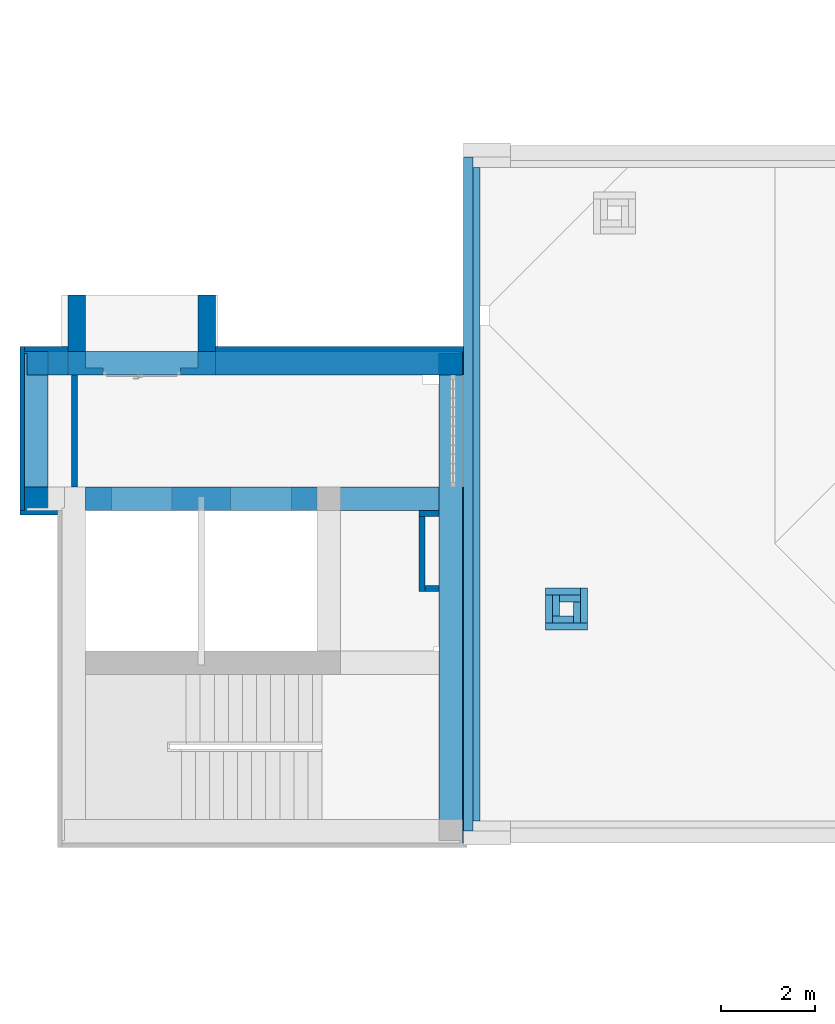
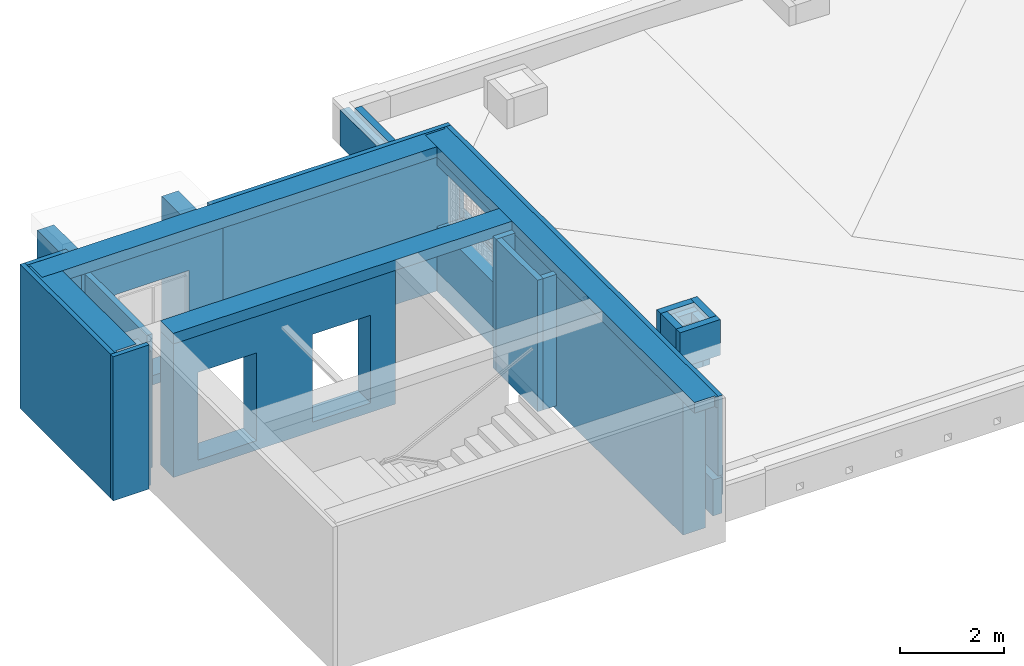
# One storey, part 4 of 27: 27 walls, 4 openings.
"""IFC4 building model written with IfcOpenShell, lengths in metres."""

from ifc_helpers import new_model, entity, si_unit, converted_unit, derived_unit, frame, frame_2d, origin, origin_with_axes, place, context, subcontext, project, spatial, polyline, rectangle, outline, extrude, clip, bounded_halfspace, material, layer, layer_set, layer_usage, element, save


model = new_model("IFC4")

# Units and contexts
model_context = context("Model", 3, precision=1e-05, world=origin())
body_context = subcontext(model_context, "Body", "Model", "MODEL_VIEW")
ifc_project = project(units=[si_unit("LENGTHUNIT", "METRE"), si_unit("AREAUNIT", "SQUARE_METRE"), si_unit("VOLUMEUNIT", "CUBIC_METRE"), si_unit("MASSUNIT", "GRAM", prefix="KILO"), converted_unit("PLANEANGLEUNIT", "DEGREE", entity("IfcPlaneAngleMeasure", 0.0174532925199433), si_unit("PLANEANGLEUNIT", "RADIAN"), dimensions=[0, 0, 0, 0, 0, 0, 0]), derived_unit("THERMALTRANSMITTANCEUNIT", [(si_unit("POWERUNIT", "WATT"), 1), (si_unit("THERMODYNAMICTEMPERATUREUNIT", "KELVIN"), -1), (si_unit("LENGTHUNIT", "METRE"), -2)]), derived_unit("VOLUMETRICFLOWRATEUNIT", [(si_unit("LENGTHUNIT", "METRE"), 3), (converted_unit("TIMEUNIT", "hour", entity("IfcTimeMeasure", 3600.0), si_unit("TIMEUNIT", "SECOND"), dimensions=[0, 0, 1, 0, 0, 0, 0]), -1), (si_unit("LENGTHUNIT", "METRE"), -1)])], contexts=[model_context])

# Site, building, storey
site_placement = place(None, origin())
site = spatial("IfcSite", under=ifc_project, at=site_placement, Name="3. ASŘ", CompositionType="ELEMENT")
building_placement = place(site_placement, origin())
building = spatial("IfcBuilding", under=site, at=building_placement, Name="Pavilon C", CompositionType="ELEMENT")
storey_placement = place(building_placement, frame((0.0, 0.0, 7.2)))
storey = spatial("IfcBuildingStorey", under=building, at=storey_placement, Name="Půdorys 3.NP", CompositionType="ELEMENT", Elevation=7.2)

# Walls
ifc_material_1 = material(Name="ZDIVO Z CDm")
ifc_layer_1 = layer(ifc_material_1, 0.125)
ifc_layer_set_1 = layer_set([ifc_layer_1])
ifc_layer_usage_1 = layer_usage(ifc_layer_set_1, "AXIS2", "POSITIVE", 0.0)
wall_1_placement = place(storey_placement, frame((-9.37499999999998, 10.35, -0.52), z_axis=(0.0, 0.0, 1.0), x_axis=(0.0, -1.0, 0.0)))
element("IfcWall", 1, at=wall_1_placement, inside=storey, material=ifc_layer_usage_1, Name="ZDIVO Z CDm", context=body_context, shape_type="SweptSolid", body=[
    extrude(rectangle(XDim=2.4, YDim=0.125, at=frame_2d((1.2, 0.0625), x_axis=(1.0, 0.0))), origin_with_axes(), (0.0, 0.0, 1.0), 3.15),
])
ifc_material_2 = material(Name="ZDIVO")
ifc_layer_2 = layer(ifc_material_2, 0.150000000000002)
ifc_layer_set_2 = layer_set([ifc_layer_2])
ifc_layer_usage_2 = layer_usage(ifc_layer_set_2, "AXIS2", "POSITIVE", 0.0)
wall_2_placement = place(storey_placement, frame((1.05000000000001, 5.5, -0.1)))
element("IfcWall", 2, at=wall_2_placement, inside=storey, material=ifc_layer_usage_2, Name="ZDIVO Z CDm", context=body_context, shape_type="SweptSolid", body=[
    extrude(rectangle(XDim=0.450000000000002, YDim=0.150000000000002, at=frame_2d((0.225000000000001, 0.0750000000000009), x_axis=(1.0, 0.0))), origin_with_axes(), (0.0, 0.0, 1.0), 1.0),
])
ifc_material_3 = material(Name="ZDIVO")
ifc_layer_3 = layer(ifc_material_3, 0.150000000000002)
ifc_layer_set_3 = layer_set([ifc_layer_3])
ifc_layer_usage_3 = layer_usage(ifc_layer_set_3, "AXIS2", "POSITIVE", 0.0)
wall_3_placement = place(storey_placement, frame((1.05000000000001, 5.2, -0.1), z_axis=(0.0, 0.0, 1.0), x_axis=(0.0, 1.0, 0.0)))
element("IfcWall", 3, at=wall_3_placement, inside=storey, material=ifc_layer_usage_3, Name="ZDIVO Z CDm", context=body_context, shape_type="SweptSolid", body=[
    extrude(rectangle(XDim=0.450000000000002, YDim=0.150000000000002, at=frame_2d((0.225000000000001, 0.0750000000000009), x_axis=(1.0, 0.0))), origin_with_axes(), (0.0, 0.0, 1.0), 1.0),
])
ifc_material_4 = material(Name="ZDIVO")
ifc_layer_4 = layer(ifc_material_4, 0.150000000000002)
ifc_layer_set_4 = layer_set([ifc_layer_4])
ifc_layer_usage_4 = layer_usage(ifc_layer_set_4, "AXIS2", "POSITIVE", 0.0)
wall_4_placement = place(storey_placement, frame((1.35000000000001, 5.2, -0.1), z_axis=(0.0, 0.0, 1.0), x_axis=(-1.0, 0.0, 0.0)))
element("IfcWall", 4, at=wall_4_placement, inside=storey, material=ifc_layer_usage_4, Name="ZDIVO Z CDm", context=body_context, shape_type="SweptSolid", body=[
    extrude(rectangle(XDim=0.450000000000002, YDim=0.150000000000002, at=frame_2d((0.225000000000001, 0.0750000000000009), x_axis=(1.0, 0.0))), origin_with_axes(), (0.0, 0.0, 1.0), 1.0),
])
ifc_material_5 = material(Name="ZDIVO")
ifc_layer_5 = layer(ifc_material_5, 0.150000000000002)
ifc_layer_set_5 = layer_set([ifc_layer_5])
ifc_layer_usage_5 = layer_usage(ifc_layer_set_5, "AXIS2", "POSITIVE", 0.0)
wall_5_placement = place(storey_placement, frame((1.35000000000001, 5.5, -0.1), z_axis=(0.0, 0.0, 1.0), x_axis=(0.0, -1.0, 0.0)))
element("IfcWall", 5, at=wall_5_placement, inside=storey, material=ifc_layer_usage_5, Name="ZDIVO Z CDm", context=body_context, shape_type="SweptSolid", body=[
    extrude(rectangle(XDim=0.450000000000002, YDim=0.150000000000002, at=frame_2d((0.225000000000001, 0.0750000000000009), x_axis=(1.0, 0.0))), origin_with_axes(), (0.0, 0.0, 1.0), 1.0),
])
ifc_material_6 = material(Name="ZDIVO Z CDm")
ifc_layer_6 = layer(ifc_material_6, 0.125)
ifc_layer_set_6 = layer_set([ifc_layer_6])
ifc_layer_usage_6 = layer_usage(ifc_layer_set_6, "AXIS2", "POSITIVE", 0.0)
wall_6_placement = place(storey_placement, frame((-1.94999999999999, 7.325, -0.42), z_axis=(0.0, 0.0, 1.0), x_axis=(-2.8421709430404e-16, -1.0, 0.0)))
element("IfcWall", 6, at=wall_6_placement, inside=storey, material=ifc_layer_usage_6, Name="ZDIVO Z CDm", context=body_context, shape_type="SweptSolid", body=[
    extrude(rectangle(XDim=1.6, YDim=0.125, at=frame_2d((0.8, 0.0625), x_axis=(1.0, 0.0))), origin_with_axes(), (0.0, 0.0, 1.0), 3.1),
])
ifc_material_7 = material(Name="ZDIVO Z CDm")
ifc_layer_7 = layer(ifc_material_7, 0.125)
ifc_layer_set_7 = layer_set([ifc_layer_7])
ifc_layer_usage_7 = layer_usage(ifc_layer_set_7, "AXIS2", "POSITIVE", 0.0)
wall_7_placement = place(storey_placement, frame((-1.52499999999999, 5.85, -0.42), z_axis=(0.0, 0.0, 1.0), x_axis=(-1.0, 0.0, 0.0)))
element("IfcWall", 7, at=wall_7_placement, inside=storey, material=ifc_layer_usage_7, Name="ZDIVO Z CDm", context=body_context, shape_type="SweptSolid", body=[
    extrude(rectangle(XDim=0.299999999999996, YDim=0.125, at=frame_2d((0.149999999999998, 0.0625), x_axis=(1.0, 0.0))), origin_with_axes(), (0.0, 0.0, 1.0), 3.1),
])
ifc_material_8 = material(Name="ZDIVO Z CDm")
ifc_layer_8 = layer(ifc_material_8, 0.125)
ifc_layer_set_8 = layer_set([ifc_layer_8])
ifc_layer_usage_8 = layer_usage(ifc_layer_set_8, "AXIS2", "POSITIVE", 0.0)
wall_8_placement = place(storey_placement, frame((-1.94999999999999, 7.325, -0.42)))
element("IfcWall", 8, at=wall_8_placement, inside=storey, material=ifc_layer_usage_8, Name="ZDIVO Z CDm", context=body_context, shape_type="SweptSolid", body=[
    extrude(rectangle(XDim=0.425, YDim=0.125, at=frame_2d((0.2125, 0.0625), x_axis=(1.0, 0.0))), origin_with_axes(), (0.0, 0.0, 1.0), 3.1),
])
ifc_material_9 = material(Name="NEOVĚŘENO")
ifc_layer_9 = layer(ifc_material_9, 0.375)
ifc_layer_set_9 = layer_set([ifc_layer_9])
ifc_layer_usage_9 = layer_usage(ifc_layer_set_9, "AXIS2", "POSITIVE", 0.0)
wall_9_placement = place(storey_placement, frame((-9.07499999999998, 10.85, -0.42), z_axis=(0.0, 0.0, 1.0), x_axis=(0.0, 1.0, 0.0)))
element("IfcWall", 9, at=wall_9_placement, inside=storey, material=ifc_layer_usage_9, Name="YTONG 375", context=body_context, shape_type="SweptSolid", body=[
    extrude(rectangle(XDim=1.21, YDim=0.375, at=frame_2d((0.605, 0.1875), x_axis=(1.0, 0.0))), origin_with_axes(), (0.0, 0.0, 1.0), 3.07),
])
ifc_material_10 = material(Name="NEOVĚŘENO")
ifc_layer_10 = layer(ifc_material_10, 0.375)
ifc_layer_set_10 = layer_set([ifc_layer_10])
ifc_layer_usage_10 = layer_usage(ifc_layer_set_10, "AXIS2", "POSITIVE", 0.0)
wall_10_placement = place(storey_placement, frame((-6.29999999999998, 10.85, -0.42), z_axis=(0.0, 0.0, 1.0), x_axis=(0.0, 1.0, 0.0)))
element("IfcWall", 10, at=wall_10_placement, inside=storey, material=ifc_layer_usage_10, Name="YTONG 375", context=body_context, shape_type="SweptSolid", body=[
    extrude(rectangle(XDim=1.21, YDim=0.375, at=frame_2d((0.605, 0.1875), x_axis=(1.0, 0.0))), origin_with_axes(), (0.0, 0.0, 1.0), 2.9),
])
ifc_material_11 = material(Name="EPS")
ifc_layer_11 = layer(ifc_material_11, 0.1)
ifc_material_12 = material(Name="ZDIVO Z CDm")
ifc_layer_12 = layer(ifc_material_12, 0.499999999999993)
ifc_layer_set_11 = layer_set([ifc_layer_11, ifc_layer_12])
ifc_layer_usage_11 = layer_usage(ifc_layer_set_11, "AXIS2", "POSITIVE", -0.1)
wall_11_placement = place(storey_placement, frame((-10.475, 10.95, -0.52), z_axis=(0.0, 0.0, 1.0), x_axis=(0.0, -1.0, 0.0)))
element("IfcWall", 11, at=wall_11_placement, inside=storey, material=ifc_layer_usage_11, Name="ZDIVO Z CDm", context=body_context, shape_type="Clipping", body=[
    clip(extrude(outline(polyline([(-3.49999999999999, 0.0), (0.0, 0.0), (0.0, 0.1), (-0.499999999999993, 0.1), (-0.499999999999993, 0.599999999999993), (-3.39999999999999, 0.599999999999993), (-3.39999999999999, 0.1), (-3.49999999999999, 0.1), (-3.49999999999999, 0.0)])), frame((3.49999999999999, 0.0, 0.0), z_axis=(0.0, 0.0, 1.0), x_axis=(1.0, 0.0, 0.0)), (0.0, 0.0, 1.0), 3.4), bounded_halfspace(frame((1.55, 0.349999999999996, 3.15), z_axis=(0.0, 0.0, -1.0), x_axis=(1.0, 0.0, 0.0)), True, origin_with_axes(), polyline([(0.1, 0.1), (3.0, 0.1), (3.0, 0.599999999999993), (0.1, 0.599999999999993), (0.1, 0.1)]))),
])

# Wall, openings
ifc_material_13 = material(Name="ZDIVO Z CDm")
ifc_layer_13 = layer(ifc_material_13, 0.5)
ifc_layer_set_12 = layer_set([ifc_layer_13])
ifc_layer_usage_12 = layer_usage(ifc_layer_set_12, "AXIS2", "POSITIVE", 0.0)
wall_12_placement = place(storey_placement, frame((-4.12499999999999, 7.95, -0.52), z_axis=(0.0, 0.0, 1.0), x_axis=(-1.0, 0.0, 0.0)))
wall_12 = element("IfcWall", 12, at=wall_12_placement, inside=storey, material=ifc_layer_usage_12, Name="ZDIVO Z CDm", context=body_context, shape_type="SweptSolid", body=[
    extrude(rectangle(XDim=4.95, YDim=0.5, at=frame_2d((2.475, 0.25), x_axis=(1.0, 0.0))), origin_with_axes(), (0.0, 0.0, 1.0), 3.15),
])
opening_1_placement = place(wall_12_placement, frame((3.1, 0.0, 0.22), z_axis=(0.0, 1.0, 0.0), x_axis=(0.0, 0.0, 1.0)))
element("IfcOpeningElement", 13, at=opening_1_placement, cuts=wall_12, Name="Dveřní otvor", ObjectType="Opening", context=body_context, shape_type="SweptSolid", body=[
    extrude(outline(polyline([(0.0, 1.3), (2.07, 1.3), (2.07, 0.0), (0.0, 0.0), (0.0, 1.3)])), origin_with_axes(), (0.0, 0.0, 1.0), 0.5),
])
opening_2_placement = place(wall_12_placement, frame((0.55, 0.0, 0.22), z_axis=(0.0, 1.0, 0.0), x_axis=(0.0, 0.0, 1.0)))
element("IfcOpeningElement", 14, at=opening_2_placement, cuts=wall_12, Name="Dveřní otvor", ObjectType="Opening", context=body_context, shape_type="SweptSolid", body=[
    extrude(outline(polyline([(0.0, 1.3), (2.07, 1.3), (2.07, 0.0), (0.0, 0.0), (0.0, 1.3)])), origin_with_axes(), (0.0, 0.0, 1.0), 0.5),
])

# Wall
ifc_material_14 = material(Name="EPS")
ifc_layer_14 = layer(ifc_material_14, 0.1)
ifc_material_15 = material(Name="ZDIVO Z CDm")
ifc_layer_15 = layer(ifc_material_15, 0.499999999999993)
ifc_layer_set_13 = layer_set([ifc_layer_14, ifc_layer_15])
ifc_layer_usage_13 = layer_usage(ifc_layer_set_13, "AXIS2", "POSITIVE", -0.1)
wall_13_placement = place(storey_placement, frame((-10.475, 7.35000000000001, -0.52)))
element("IfcWall", 15, at=wall_13_placement, inside=storey, material=ifc_layer_usage_13, Name="ZDIVO Z CDm", context=body_context, shape_type="Clipping", body=[
    clip(extrude(outline(polyline([(0.0, 0.0), (0.8, 0.0), (0.8, 0.1), (0.9, 0.1), (0.9, 0.599999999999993), (0.1, 0.599999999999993), (0.1, 0.1), (0.0, 0.1), (0.0, 0.0)])), origin_with_axes(), (0.0, 0.0, 1.0), 3.4), bounded_halfspace(frame((0.559999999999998, 0.299999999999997, 3.15), z_axis=(0.0, 0.0, -1.0), x_axis=(1.0, 0.0, 0.0)), True, origin_with_axes(), polyline([(0.8, 0.1), (0.9, 0.1), (0.9, 0.599999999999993), (0.1, 0.599999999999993), (0.1, 0.1), (0.8, 0.1)]))),
])

# Wall, opening
ifc_material_16 = material(Name="ZDIVO Z CDm")
ifc_layer_16 = layer(ifc_material_16, 0.5)
ifc_layer_set_14 = layer_set([ifc_layer_16])
ifc_layer_usage_14 = layer_usage(ifc_layer_set_14, "AXIS2", "POSITIVE", 0.0)
wall_14_placement = place(storey_placement, frame((-6.29999999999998, 10.85, -0.52), z_axis=(0.0, 0.0, 1.0), x_axis=(-1.0, 0.0, 0.0)))
wall_14 = element("IfcWall", 16, at=wall_14_placement, inside=storey, material=ifc_layer_usage_14, Name="ZDIVO Z CDm", context=body_context, shape_type="Clipping", body=[
    clip(clip(clip(extrude(rectangle(XDim=3.15, YDim=0.5, at=frame_2d((1.575, 0.25), x_axis=(1.0, 0.0))), origin_with_axes(), (0.0, 0.0, 1.0), 3.15), bounded_halfspace(frame((0.562500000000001, 0.175, 0.219999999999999), z_axis=(0.0, 0.0, -1.0), x_axis=(1.0, 0.0, 0.0)), True, origin_with_axes(), polyline([(0.375000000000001, 0.0), (0.750000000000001, 0.0), (0.750000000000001, 0.35), (0.375000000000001, 0.35), (0.375000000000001, 0.0)]))), bounded_halfspace(frame((1.575, 0.175, 2.42), z_axis=(5.51208910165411e-16, 2.5985562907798e-15, -1.0), x_axis=(2.59855629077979e-15, -1.0, -5.19711258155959e-15)), True, origin_with_axes(), polyline([(0.75, 0.35), (0.750000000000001, 0.0), (2.4, 0.0), (2.4, 0.35), (0.75, 0.35)]))), bounded_halfspace(frame((2.5875, 0.175, 0.219999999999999), z_axis=(0.0, 0.0, -1.0), x_axis=(-1.0, 0.0, 0.0)), True, origin_with_axes(), polyline([(2.775, 0.35), (2.4, 0.35), (2.4, 0.0), (2.775, 0.0), (2.775, 0.35)]))),
])
opening_3_placement = place(wall_14_placement, frame((2.4, 0.5, 0.22), z_axis=(0.0, -1.0, 0.0), x_axis=(0.0, 0.0, 1.0)))
element("IfcOpeningElement", 17, at=opening_3_placement, cuts=wall_14, Name="Dveřní otvor", ObjectType="Opening", context=body_context, shape_type="SweptSolid", body=[
    extrude(outline(polyline([(0.0, 1.65), (2.2, 1.65), (2.2, 0.0), (0.0, 0.0), (0.0, 1.65)])), origin_with_axes(), (0.0, 0.0, 1.0), 0.5),
])

# Walls
ifc_material_17 = material(Name="EPS")
ifc_layer_17 = layer(ifc_material_17, 0.1)
ifc_material_18 = material(Name="ZDIVO Z CDm")
ifc_layer_18 = layer(ifc_material_18, 0.499999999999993)
ifc_layer_set_15 = layer_set([ifc_layer_17, ifc_layer_18])
ifc_layer_usage_15 = layer_usage(ifc_layer_set_15, "AXIS2", "POSITIVE", -0.1)
wall_15_placement = place(storey_placement, frame((-9.44999999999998, 10.95, -0.52), z_axis=(0.0, 0.0, 1.0), x_axis=(-1.0, 0.0, 0.0)))
element("IfcWall", 18, at=wall_15_placement, inside=storey, material=ifc_layer_usage_15, Name="ZDIVO Z CDm", context=body_context, shape_type="Clipping", body=[
    clip(extrude(outline(polyline([(-0.925, -0.599999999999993), (0.0, -0.599999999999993), (0.0, -0.499999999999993), (-0.499999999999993, -0.499999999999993), (-0.499999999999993, 0.0), (-0.925, 0.0), (-0.925, -0.599999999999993)])), frame((0.925, 0.599999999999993, 0.0), z_axis=(0.0, 0.0, 1.0), x_axis=(1.0, 0.0, 0.0)), (0.0, 0.0, 1.0), 3.4), bounded_halfspace(frame((0.212500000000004, 0.349999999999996, 3.15), z_axis=(0.0, 0.0, -1.0), x_axis=(1.0, 0.0, 0.0)), True, origin_with_axes(), polyline([(0.0, 0.1), (0.425000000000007, 0.1), (0.425000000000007, 0.599999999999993), (0.0, 0.599999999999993), (0.0, 0.1)]))),
])
ifc_material_19 = material(Name="EPS")
ifc_layer_19 = layer(ifc_material_19, 0.1)
ifc_material_20 = material(Name="ZDIVO Z CDm")
ifc_layer_20 = layer(ifc_material_20, 0.499999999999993)
ifc_layer_set_16 = layer_set([ifc_layer_19, ifc_layer_20])
ifc_layer_usage_16 = layer_usage(ifc_layer_set_16, "AXIS2", "POSITIVE", -0.1)
wall_16_placement = place(storey_placement, frame((-0.924999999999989, 10.95, -0.52), z_axis=(0.0, 0.0, 1.0), x_axis=(-1.0, 0.0, 0.0)))
element("IfcWall", 19, at=wall_16_placement, inside=storey, material=ifc_layer_usage_16, Name="ZDIVO Z CDm", context=body_context, shape_type="Clipping", body=[
    clip(extrude(outline(polyline([(-5.275, 0.0), (-5.275, -0.499999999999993), (-5.37499999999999, -0.499999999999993), (-5.37499999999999, -0.599999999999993), (0.0, -0.599999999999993), (0.0, 0.0), (-5.275, 0.0)])), frame((5.37499999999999, 0.599999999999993, 0.0), z_axis=(0.0, 0.0, 1.0), x_axis=(1.0, 0.0, 0.0)), (0.0, 0.0, 1.0), 3.4), bounded_halfspace(frame((2.7375, 0.349999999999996, 3.15), z_axis=(0.0, 0.0, -1.0), x_axis=(1.0, 0.0, 0.0)), True, origin_with_axes(), polyline([(0.0999999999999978, 0.1), (5.37499999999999, 0.1), (5.37499999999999, 0.599999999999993), (0.0999999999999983, 0.599999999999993), (0.0999999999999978, 0.1)]))),
])
ifc_material_21 = material(Name="ZELEZOBETONOVÁ KCE")
ifc_layer_21 = layer(ifc_material_21, 0.2)
ifc_layer_set_17 = layer_set([ifc_layer_21])
ifc_layer_usage_17 = layer_usage(ifc_layer_set_17, "AXIS2", "POSITIVE", 0.0)
wall_17_placement = place(storey_placement, frame((-0.999999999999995, 15.0, -0.1), z_axis=(0.0, 0.0, 1.0), x_axis=(-1.8947806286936e-16, -1.0, 0.0)))
element("IfcWall", 20, at=wall_17_placement, inside=storey, material=ifc_layer_usage_17, Name="ZELEZOBETONOVÁ KCE", context=body_context, shape_type="SweptSolid", body=[
    extrude(rectangle(XDim=14.4, YDim=0.2, at=frame_2d((7.2, 0.1), x_axis=(1.0, 0.0))), origin_with_axes(), (0.0, 0.0, 1.0), 0.85),
])

# Wall, opening
ifc_material_22 = material(Name="EPS")
ifc_layer_22 = layer(ifc_material_22, 0.0999999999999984)
ifc_material_23 = material(Name="ZDIVO Z CDm")
ifc_layer_23 = layer(ifc_material_23, 0.499999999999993)
ifc_layer_set_18 = layer_set([ifc_layer_22, ifc_layer_23])
ifc_layer_usage_18 = layer_usage(ifc_layer_set_18, "AXIS2", "POSITIVE", -0.1)
wall_18_placement = place(storey_placement, frame((-0.924999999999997, 0.350000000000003, -0.52), z_axis=(0.0, 0.0, 1.0), x_axis=(7.25430297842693e-16, 1.0, 0.0)))
wall_18 = element("IfcWall", 21, at=wall_18_placement, inside=storey, material=ifc_layer_usage_18, Name="ZDIVO Z CDm", context=body_context, shape_type="Clipping", body=[
    clip(clip(extrude(outline(polyline([(4.35258178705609e-16, -0.599999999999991), (10.5, -0.599999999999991), (10.5, -0.499999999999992), (10.0, -0.499999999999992), (10.0, 2.0571903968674e-16), (0.500000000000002, 3.62715148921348e-16), (0.500000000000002, -0.499999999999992), (3.62715148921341e-16, -0.499999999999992), (4.35258178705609e-16, -0.599999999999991)])), frame((-4.35258178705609e-16, 0.599999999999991, 0.0), z_axis=(0.0, 0.0, 1.0), x_axis=(1.0, 0.0, 0.0)), (0.0, 0.0, 1.0), 3.4), bounded_halfspace(frame((5.25, 0.0666666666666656, 1.52), z_axis=(0.0, 0.0, 1.0), x_axis=(-1.0, 1.65259062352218e-17, 0.0)), True, origin_with_axes(), polyline([(10.0, 0.0999999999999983), (0.500000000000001, 0.0999999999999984), (-7.25430297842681e-17, 0.0999999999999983), (-8.24718765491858e-32, 1.13686837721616e-16), (10.5, 1.13686837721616e-16), (10.5, 0.0999999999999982), (10.0, 0.0999999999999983)]))), bounded_halfspace(frame((5.25, 0.349999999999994, 3.15), z_axis=(0.0, 0.0, -1.0), x_axis=(1.0, 7.40816486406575e-18, 0.0)), True, origin_with_axes(), polyline([(0.500000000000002, 0.0999999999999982), (10.0, 0.0999999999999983), (10.0, 0.599999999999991), (0.500000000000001, 0.599999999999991), (0.500000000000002, 0.0999999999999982)]))),
])
opening_4_placement = place(wall_18_placement, frame((7.60000000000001, -5.73847847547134e-17, 1.52), z_axis=(0.0, 1.0, 0.0), x_axis=(0.0, 0.0, 1.0)))
element("IfcOpeningElement", 22, at=opening_4_placement, cuts=wall_18, Name="Okenní otvor", ObjectType="Opening", context=body_context, shape_type="SweptSolid", body=[
    extrude(outline(polyline([(0.0, 2.4), (1.45, 2.4), (1.45, 0.0), (0.0, 0.0), (0.0, 2.4)])), origin_with_axes(), (0.0, 0.0, 1.0), 0.0999999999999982),
    extrude(outline(polyline([(0.0, 2.4), (1.45, 2.4), (1.45, 0.0), (0.0, 0.0), (0.0, 2.4)])), frame((0.0, -7.10542735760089e-17, 0.0999999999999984), z_axis=(0.0, 0.0, 1.0), x_axis=(1.0, 0.0, 0.0)), (0.0, 0.0, 1.0), 0.499999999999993),
])

# Walls
ifc_material_24 = material(Name="ZELEZOBETONOVÁ KCE")
ifc_layer_24 = layer(ifc_material_24, 0.5)
ifc_layer_set_19 = layer_set([ifc_layer_24])
ifc_layer_usage_19 = layer_usage(ifc_layer_set_19, "AXIS2", "POSITIVE", 0.0)
wall_19_placement = place(storey_placement, frame((-9.07499999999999, 7.45, 2.63)))
element("IfcWall", 23, at=wall_19_placement, inside=storey, material=ifc_layer_usage_19, context=body_context, shape_type="SweptSolid", body=[
    extrude(rectangle(XDim=7.55, YDim=0.5, at=frame_2d((3.775, 0.25), x_axis=(1.0, 0.0))), origin_with_axes(), (0.0, 0.0, 1.0), 0.25),
])
ifc_material_25 = material(Name="ZELEZOBETONOVÁ KCE")
ifc_layer_25 = layer(ifc_material_25, 0.45)
ifc_material_26 = material(Name="LIGNOPOR")
ifc_layer_26 = layer(ifc_material_26, 0.05)
ifc_layer_set_20 = layer_set([ifc_layer_25, ifc_layer_26])
ifc_layer_usage_20 = layer_usage(ifc_layer_set_20, "AXIS2", "POSITIVE", 0.0)
wall_20_placement = place(storey_placement, frame((-1.52499999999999, 10.8, 2.63), z_axis=(0.0, 0.0, 1.0), x_axis=(-6.99611309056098e-16, -1.0, 0.0)))
element("IfcWall", 24, at=wall_20_placement, inside=storey, material=ifc_layer_usage_20, context=body_context, shape_type="SweptSolid", body=[
    extrude(outline(polyline([(-10.45, -3.49805654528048e-17), (-0.05, -3.49805654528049e-17), (-0.0500000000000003, 0.45), (-3.14825089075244e-16, 0.45), (-3.49805654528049e-16, 0.5), (-10.5, 0.5), (-10.5, 0.45), (-10.45, 0.45), (-10.45, -3.49805654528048e-17)])), frame((10.45, 3.49805654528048e-17, 0.0), z_axis=(0.0, 0.0, 1.0), x_axis=(1.0, 0.0, 0.0)), (0.0, 0.0, 1.0), 0.25),
])
ifc_material_27 = material(Name="ZELEZOBETONOVÁ KCE")
ifc_layer_27 = layer(ifc_material_27, 0.45)
ifc_material_28 = material(Name="LIGNOPOR")
ifc_layer_28 = layer(ifc_material_28, 0.05)
ifc_layer_set_21 = layer_set([ifc_layer_27, ifc_layer_28])
ifc_layer_usage_21 = layer_usage(ifc_layer_set_21, "AXIS2", "POSITIVE", 0.0)
wall_21_placement = place(storey_placement, frame((-10.325, 10.35, 2.63), z_axis=(0.0, 0.0, 1.0), x_axis=(1.0, 8.26813365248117e-16, 0.0)))
element("IfcWall", 25, at=wall_21_placement, inside=storey, material=ifc_layer_usage_21, context=body_context, shape_type="SweptSolid", body=[
    extrude(outline(polyline([(0.05, -4.13406682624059e-17), (8.84999999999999, -4.13406682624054e-17), (8.84999999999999, 0.45), (9.29999999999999, 0.45), (9.29999999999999, 0.5), (4.13406682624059e-16, 0.5), (3.72066014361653e-16, 0.45), (0.0500000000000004, 0.45), (0.05, -4.13406682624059e-17)])), frame((-0.05, 4.13406682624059e-17, 0.0), z_axis=(0.0, 0.0, 1.0), x_axis=(1.0, 0.0, 0.0)), (0.0, 0.0, 1.0), 0.25),
])
ifc_material_29 = material(Name="ZELEZOBETONOVÁ KCE")
ifc_layer_29 = layer(ifc_material_29, 0.45)
ifc_material_30 = material(Name="LIGNOPOR")
ifc_layer_30 = layer(ifc_material_30, 0.05)
ifc_layer_set_22 = layer_set([ifc_layer_29, ifc_layer_30])
ifc_layer_usage_22 = layer_usage(ifc_layer_set_22, "AXIS2", "POSITIVE", 0.0)
wall_22_placement = place(storey_placement, frame((-9.87499999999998, 7.5, 2.63), z_axis=(0.0, 0.0, 1.0), x_axis=(0.0, 1.0, 0.0)))
element("IfcWall", 26, at=wall_22_placement, inside=storey, material=ifc_layer_usage_22, context=body_context, shape_type="SweptSolid", body=[
    extrude(outline(polyline([(0.05, -0.5), (2.9, -0.5), (2.9, -0.05), (3.35, -0.05), (3.35, 0.0), (0.0, 0.0), (0.0, -0.05), (0.05, -0.05), (0.05, -0.5)])), frame((-0.05, 0.5, 0.0), z_axis=(0.0, 0.0, 1.0), x_axis=(1.0, 0.0, 0.0)), (0.0, 0.0, 1.0), 0.25),
])
ifc_material_31 = material(Name="MINERÁLNÍ VATA")
ifc_layer_31 = layer(ifc_material_31, 0.15)
ifc_layer_set_23 = layer_set([ifc_layer_31])
ifc_layer_usage_23 = layer_usage(ifc_layer_set_23, "AXIS2", "POSITIVE", 0.0)
wall_23_placement = place(storey_placement, frame((-0.799999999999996, 14.78, 0.16), z_axis=(0.0, 0.0, 1.0), x_axis=(-1.79162638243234e-16, -1.0, 0.0)))
element("IfcWall", 27, at=wall_23_placement, inside=storey, material=ifc_layer_usage_23, Name="MINERÁLNÍ VATA", context=body_context, shape_type="SweptSolid", body=[
    extrude(rectangle(XDim=13.96, YDim=0.15, at=frame_2d((6.98, 0.075), x_axis=(1.0, 0.0))), origin_with_axes(), (0.0, 0.0, 1.0), 0.69),
])
ifc_material_32 = material(Name="MINERÁLNÍ VATA")
ifc_layer_32 = layer(ifc_material_32, 0.15)
ifc_layer_set_24 = layer_set([ifc_layer_32])
ifc_layer_usage_24 = layer_usage(ifc_layer_set_24, "AXIS2", "POSITIVE", 0.0)
wall_24_placement = place(storey_placement, frame((1.65000000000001, 5.05, 0.16), z_axis=(0.0, 0.0, 1.0), x_axis=(-1.0, 0.0, 0.0)))
element("IfcWall", 28, at=wall_24_placement, inside=storey, material=ifc_layer_usage_24, Name="MINERÁLNÍ VATA", context=body_context, shape_type="SweptSolid", body=[
    extrude(rectangle(XDim=0.900000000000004, YDim=0.15, at=frame_2d((0.450000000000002, 0.075), x_axis=(1.0, 0.0))), origin_with_axes(), (0.0, 0.0, 1.0), 0.84),
])
ifc_material_33 = material(Name="MINERÁLNÍ VATA")
ifc_layer_33 = layer(ifc_material_33, 0.15)
ifc_layer_set_25 = layer_set([ifc_layer_33])
ifc_layer_usage_25 = layer_usage(ifc_layer_set_25, "AXIS2", "POSITIVE", 0.0)
wall_25_placement = place(storey_placement, frame((1.50000000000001, 5.8, 0.16), z_axis=(0.0, 0.0, 1.0), x_axis=(0.0, -1.0, 0.0)))
element("IfcWall", 29, at=wall_25_placement, inside=storey, material=ifc_layer_usage_25, Name="MINERÁLNÍ VATA", context=body_context, shape_type="SweptSolid", body=[
    extrude(rectangle(XDim=0.750000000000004, YDim=0.15, at=frame_2d((0.375000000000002, 0.075), x_axis=(1.0, 0.0))), origin_with_axes(), (0.0, 0.0, 1.0), 0.84),
])
ifc_material_34 = material(Name="MINERÁLNÍ VATA")
ifc_layer_34 = layer(ifc_material_34, 0.15)
ifc_layer_set_26 = layer_set([ifc_layer_34])
ifc_layer_usage_26 = layer_usage(ifc_layer_set_26, "AXIS2", "POSITIVE", 0.0)
wall_26_placement = place(storey_placement, frame((0.750000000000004, 5.65, 0.16)))
element("IfcWall", 30, at=wall_26_placement, inside=storey, material=ifc_layer_usage_26, Name="MINERÁLNÍ VATA", context=body_context, shape_type="SweptSolid", body=[
    extrude(rectangle(XDim=0.750000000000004, YDim=0.15, at=frame_2d((0.375000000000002, 0.075), x_axis=(1.0, 0.0))), origin_with_axes(), (0.0, 0.0, 1.0), 0.84),
])
ifc_material_35 = material(Name="MINERÁLNÍ VATA")
ifc_layer_35 = layer(ifc_material_35, 0.15)
ifc_layer_set_27 = layer_set([ifc_layer_35])
ifc_layer_usage_27 = layer_usage(ifc_layer_set_27, "AXIS2", "POSITIVE", 0.0)
wall_27_placement = place(storey_placement, frame((0.900000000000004, 5.05, 0.16), z_axis=(0.0, 0.0, 1.0), x_axis=(1.89478062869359e-16, 1.0, 0.0)))
element("IfcWall", 31, at=wall_27_placement, inside=storey, material=ifc_layer_usage_27, Name="MINERÁLNÍ VATA", context=body_context, shape_type="SweptSolid", body=[
    extrude(rectangle(XDim=0.600000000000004, YDim=0.15, at=frame_2d((0.300000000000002, 0.075), x_axis=(1.0, 0.0))), origin_with_axes(), (0.0, 0.0, 1.0), 0.84),
])

save(model, "model.ifc")
